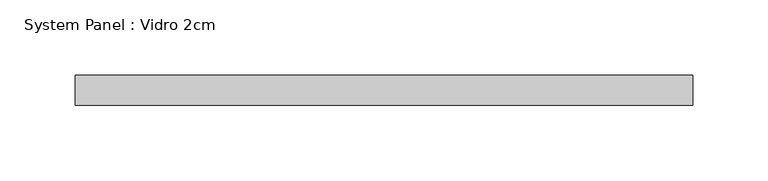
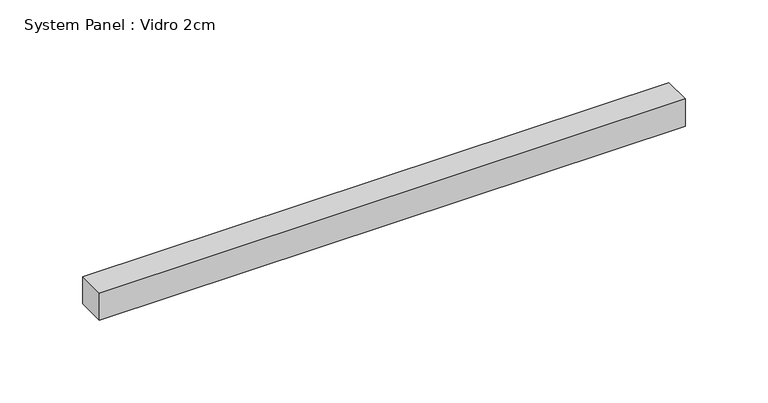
"""IFC4 building model written with IfcOpenShell, lengths in millimetres: plate geometry, System Panel : Vidro 2cm."""

from ifc_helpers import new_model, si_unit, origin, origin_with_axes, place, context, project, spatial, polyline, outline, extrude, source, transform, mapped, element, save


def system_panel_vidro_2cm_3061dd5e(model_context):
    return source(origin(), model_context, "Body", "SweptSolid", [
        extrude(outline(polyline([(204.9999998, -20.0), (-204.9999998, -20.0), (-204.9999998, 0.0), (204.9999998, 0.0), (204.9999998, -20.0)])), origin_with_axes(), (0.0, 0.0, 1.0), 20.0),
    ])


if __name__ == "__main__":
    model = new_model("IFC4")
    model_context = context("Model", 3, world=origin())
    ifc_project = project(units=[si_unit("LENGTHUNIT", "METRE", prefix="MILLI")], contexts=[model_context])
    site = spatial("IfcSite", under=ifc_project)
    building = spatial("IfcBuilding", under=site)
    placement = place(None, origin())
    system_panel_vidro_2cm_shape = system_panel_vidro_2cm_3061dd5e(model_context)
    element("IfcPlate", 1, ObjectType="System Panel : Vidro 2cm", at=placement, inside=building, context=model_context, shape_type="MappedRepresentation", body=[
        mapped(system_panel_vidro_2cm_shape, transform((0.0, 0.0, 0.0), x_axis=(1.0, 0.0, 0.0), y_axis=(0.0, 1.0, 0.0), z_axis=(0.0, 0.0, 1.0))),
    ])
    save(model, "model.ifc")
